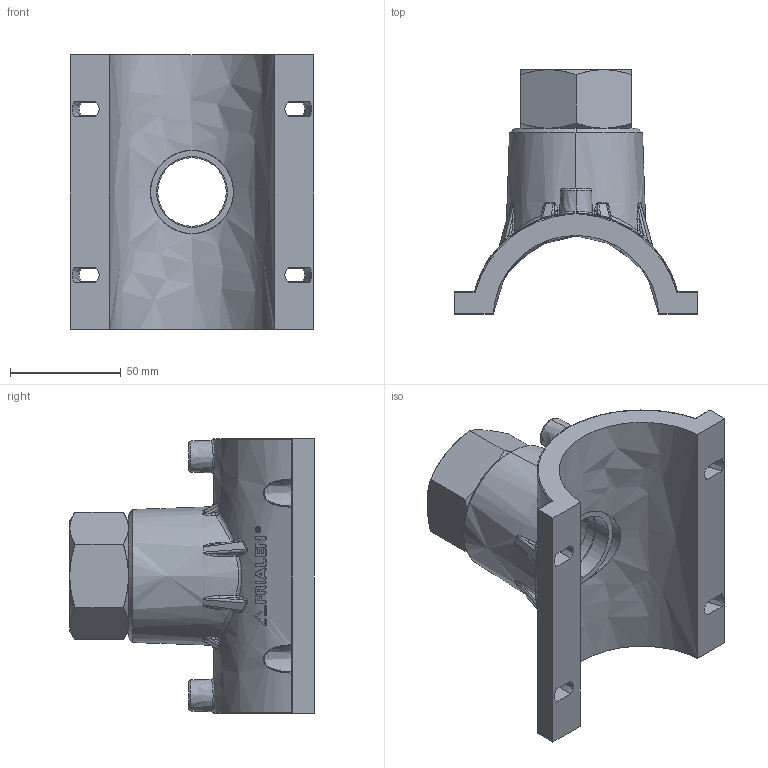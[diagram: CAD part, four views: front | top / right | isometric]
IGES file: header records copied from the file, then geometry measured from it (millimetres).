
Start section:  PTC IGES file: vam-rg_d075_1_1_4_01.igs
Global section: file name: vam-rg_d075_1_1_4_01.igs; native system: Pro/ENGINEER by Parametric Technology Corporation; preprocessor: 2011490; author: mtunjic; organization: Unknown; date: 20130909.110259; units: millimetre
Bounding box: 110 x 110.5 x 124 mm (x, y, z)
Surface area: 65958.8 mm2 (no closed solid volume)
Topology: 0 solids, 0 shells, 432 faces, 2134 edges, 2134 vertices
Faces by surface type: bspline 432
